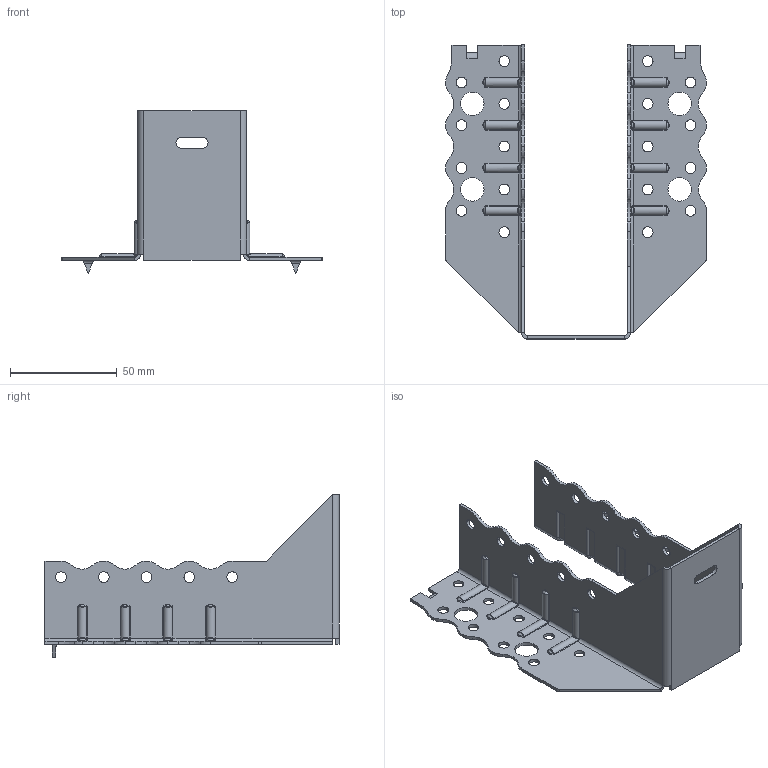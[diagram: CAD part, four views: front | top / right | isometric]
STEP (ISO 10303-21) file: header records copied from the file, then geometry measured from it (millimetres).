
FILE_DESCRIPTION (( 'STEP AP203' ), '1' );
FILE_NAME ('30607TOP.STEP', '2021-04-06T17:46:58', ( '' ), ( '' ), 'SwSTEP 2.0', 'SolidWorks 2013', '' );
FILE_SCHEMA (( 'CONFIG_CONTROL_DESIGN' ));
Length unit declared in the file: millimetre
Products named in the file (1): 30607TOP
Bounding box: 122 x 137.5 x 76 mm (x, y, z)
Volume: 32497.2 mm3; surface area: 46164.7 mm2
Topology: 1 solids, 1 shells, 511 faces, 1275 edges, 766 vertices
Faces by surface type: cylinder 253, bspline 120, plane 106, torus 16, sphere 16
Entity records: 22956 total; most frequent: CARTESIAN_POINT 11305, ORIENTED_EDGE 2550, DIRECTION 2281, EDGE_CURVE 1275, AXIS2_PLACEMENT_3D 870, VERTEX_POINT 766, EDGE_LOOP 577, VECTOR 541
